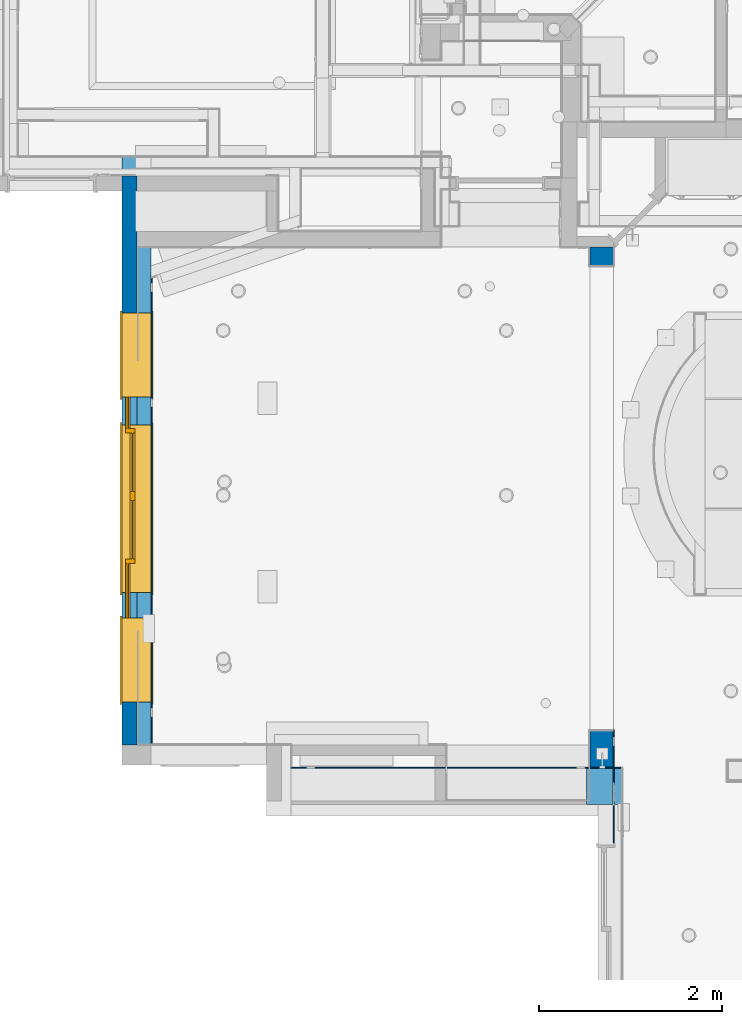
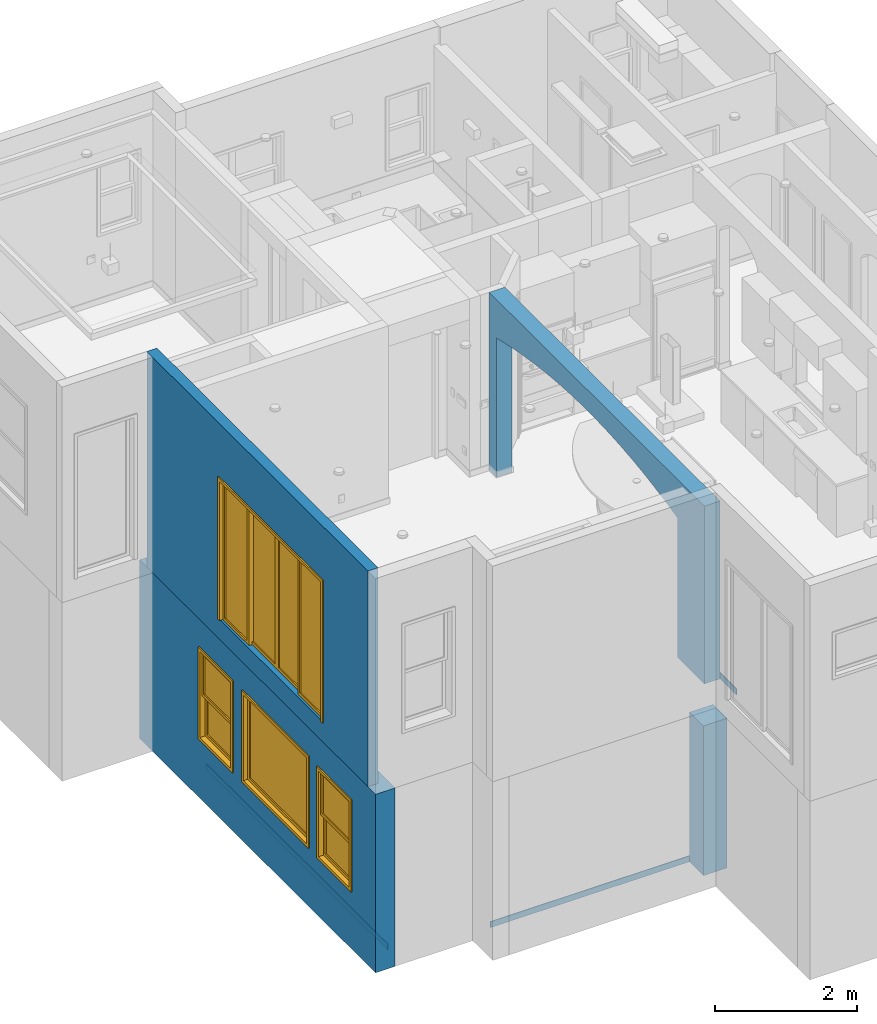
# One storey, part 2 of 60: 7 walls, 3 windows, 1 door, 7 openings.
"""IFC2X3 building model written with IfcOpenShell, lengths in feet."""

from ifc_helpers import new_model, entity, si_unit, converted_unit, direction, frame, frame_2d, origin, origin_2d_with_axis, place, context, subcontext, project, spatial, polyline, circle_curve, parameter, trimmed, segment, composite_curve, rectangle, outline, extrude, clip, bounded_halfspace, source, transform, mapped, material, material_list, layer, layer_set, layer_usage, type_object, type_shapes, element, fill, save


model = new_model("IFC2X3")

# Units and contexts
model_context = context("Model", 3, precision=0.0001, world=origin(), true_north=direction((6.123031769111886e-17, 1.0)))
plan_context = context("Plan", 3, precision=0.0001, world=origin(), true_north=direction((6.123031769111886e-17, 1.0)))
body_context = subcontext(model_context, "Body", "Model", "MODEL_VIEW")
ifc_project = project(units=[converted_unit("LENGTHUNIT", "FOOT", entity("IfcLengthMeasure", 0.3048), si_unit("LENGTHUNIT", "METRE"), dimensions=[1, 0, 0, 0, 0, 0, 0]), converted_unit("AREAUNIT", "SQUARE FOOT", entity("IfcAreaMeasure", 0.09290304), si_unit("AREAUNIT", "SQUARE_METRE"), dimensions=[2, 0, 0, 0, 0, 0, 0]), converted_unit("PLANEANGLEUNIT", "DEGREE", entity("IfcPlaneAngleMeasure", 0.017453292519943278), si_unit("PLANEANGLEUNIT", "RADIAN"), dimensions=[0, 0, 0, 0, 0, 0, 0])], contexts=[model_context, plan_context])

# Site, building, storey
site_placement = place(None, origin())
site = spatial("IfcSite", under=ifc_project, at=site_placement, Name="Default", CompositionType="ELEMENT")
building_placement = place(site_placement, origin())
building = spatial("IfcBuilding", under=site, at=building_placement, CompositionType="ELEMENT")
storey_placement = place(building_placement, origin())
storey = spatial("IfcBuildingStorey", under=building, at=storey_placement, Name="First floor", CompositionType="ELEMENT", Elevation=0.0)

# Wall, openings, door
ifc_material_1 = material(Name="Default New Material")
ifc_layer_1 = layer(ifc_material_1, 0.5416666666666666)
ifc_layer_set_1 = layer_set([ifc_layer_1], Name="Basic Wall:Wall_6.5\"")
ifc_layer_usage_1 = layer_usage(ifc_layer_set_1, "AXIS2", "NEGATIVE", 0.2708333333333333)
wall_type_1 = type_object("IfcWallType", Name="Basic Wall:Wall_6.5\"", PredefinedType="STANDARD", material=ifc_layer_set_1)
wall_1_placement = place(storey_placement, frame((-16.770833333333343, 11.208333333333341, 9.541666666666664), z_axis=(0.0, 0.0, 1.0), x_axis=(0.0, 1.0, 0.0)))
wall_1 = element("IfcWallStandardCase", 1, at=wall_1_placement, inside=storey, type_object=wall_type_1, material=ifc_layer_usage_1, Name="Basic Wall:Wall_6.5\"", ObjectType="Basic Wall:Wall_6.5\"", context=body_context, shape_type="SweptSolid", body=[
    extrude(rectangle(XDim=20.374999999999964, YDim=0.5416666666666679, at=frame_2d((10.187499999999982, -1.7763568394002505e-15), x_axis=(-1.0, 0.0))), origin(), (0.0, 0.0, 1.0), 12.125),
])
opening_1_placement = place(storey_placement, frame((-16.770833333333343, 11.208333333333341, 9.541666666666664), z_axis=(0.0, 0.0, 1.0), x_axis=(0.0, 1.0, 0.0)))
element("IfcOpeningElement", 2, at=opening_1_placement, cuts=wall_1, Name="Basic Wall:Wall_6.5\":1", ObjectType="Opening", context=body_context, shape_type="SweptSolid", body=[
    extrude(rectangle(XDim=1.4583333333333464, YDim=0.062488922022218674, at=frame_2d((1.7763568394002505e-15, 1.7763568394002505e-15), x_axis=(1.0, 0.0))), frame((19.104166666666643, -0.23958887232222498, 1.1250000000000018), z_axis=(0.0, 0.0, 1.0), x_axis=(-1.0, 0.0, 0.0)), (0.0, 0.0, 1.0), 3.5833333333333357),
])
opening_2_placement = place(wall_1_placement, frame((13.666666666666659, 0.27083333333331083, 1.1250000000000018)))
opening_2 = element("IfcOpeningElement", 3, at=opening_2_placement, cuts=wall_1, Name="Double Sliding Door:9'-4\" X 7'-10\":1", ObjectType="Opening", context=body_context, shape_type="SweptSolid", body=[
    extrude(rectangle(XDim=7.916666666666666, YDim=9.499999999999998, at=frame_2d((3.958333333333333, 4.749999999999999), x_axis=(-1.0, 0.0))), frame((0.0, 0.0, 0.0), z_axis=(0.0, -1.0, 0.0), x_axis=(0.0, 0.0, 1.0)), (0.0, 0.0, 1.0), 0.5416666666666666),
])
ifc_material_2 = material(Name="Glass")
ifc_material_list_1 = material_list([ifc_material_2, ifc_material_1])
door_style = type_object("IfcDoorStyle", Name="Double Sliding Door:9'-4\" X 7'-10\"", ConstructionType="NOTDEFINED", OperationType="NOTDEFINED", ParameterTakesPrecedence=False, Sizeable=False, material=ifc_material_list_1)
shared_shape_1 = source(origin(), body_context, "Body", "SweptSolid", [
    extrude(rectangle(XDim=0.04166666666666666, YDim=2.0833333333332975, at=frame_2d((1.3877787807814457e-17, 0.0), x_axis=(1.0, 0.0))), frame((5.9583333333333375, 0.375, 0.16666666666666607), z_axis=(0.0, 0.0, 1.0), x_axis=(0.0, 1.0, 0.0)), (0.0, 0.0, 1.0), 7.5),
    extrude(rectangle(XDim=0.04166666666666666, YDim=2.0833333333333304, at=frame_2d((1.3877787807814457e-17, 0.0), x_axis=(1.0, 0.0))), frame((3.541666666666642, 0.375, 0.16666666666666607), z_axis=(0.0, 0.0, 1.0), x_axis=(0.0, 1.0, 0.0)), (0.0, 0.0, 1.0), 7.5),
    extrude(rectangle(XDim=0.04166666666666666, YDim=2.0833333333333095, at=frame_2d((0.0, -2.220446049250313e-16), x_axis=(1.0, 0.0))), frame((1.2916666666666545, 0.20833333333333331, 0.16666666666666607), z_axis=(0.0, 0.0, 1.0), x_axis=(0.0, 1.0, 0.0)), (0.0, 0.0, 1.0), 7.5),
    extrude(rectangle(XDim=0.04166666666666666, YDim=2.0833333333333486, at=frame_2d((0.0, -2.220446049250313e-16), x_axis=(1.0, 0.0))), frame((8.208333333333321, 0.20833333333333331, 0.16666666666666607), z_axis=(0.0, 0.0, 1.0), x_axis=(0.0, 1.0, 0.0)), (0.0, 0.0, 1.0), 7.5),
    extrude(outline(polyline([(-3.9166666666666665, -1.2083333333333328), (3.9166666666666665, -1.2083333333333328), (3.9166666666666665, 1.2083333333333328), (-3.9166666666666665, 1.2083333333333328), (-3.9166666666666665, -1.2083333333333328)]), holes=[polyline([(-3.7499999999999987, 1.0416666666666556), (3.7500000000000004, 1.0416666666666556), (3.7500000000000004, -1.041666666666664), (-3.7499999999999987, -1.041666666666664), (-3.7499999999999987, 1.0416666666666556)])]), frame((3.541666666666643, 0.2916666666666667, 3.9166666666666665), z_axis=(0.0, 1.0, 0.0), x_axis=(0.0, 0.0, -1.0)), (0.0, 0.0, 1.0), 0.16666666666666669),
    extrude(outline(polyline([(-1.2083333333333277, -3.9166666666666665), (1.2083333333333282, -3.9166666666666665), (1.2083333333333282, 3.9166666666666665), (-1.2083333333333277, 3.9166666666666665), (-1.2083333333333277, -3.9166666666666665)]), holes=[polyline([(1.04166666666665, -3.7499999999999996), (-1.041666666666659, -3.7499999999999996), (-1.041666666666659, 3.7500000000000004), (1.04166666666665, 3.7500000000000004), (1.04166666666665, -3.7499999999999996)])]), frame((1.291666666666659, 0.125, 3.9166666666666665), z_axis=(0.0, 1.0, 0.0), x_axis=(1.0, 0.0, 0.0)), (0.0, 0.0, 1.0), 0.16666666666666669),
    extrude(outline(polyline([(-1.208333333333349, -3.9166666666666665), (1.208333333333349, -3.9166666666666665), (1.208333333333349, 3.9166666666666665), (-1.208333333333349, 3.9166666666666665), (-1.208333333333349, -3.9166666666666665)]), holes=[polyline([(1.041666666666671, -3.7499999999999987), (-1.0416666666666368, -3.7499999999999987), (-1.0416666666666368, 3.7500000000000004), (1.041666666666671, 3.7500000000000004), (1.041666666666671, -3.7499999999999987)])]), frame((5.958333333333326, 0.2916666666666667, 3.9166666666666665), z_axis=(0.0, 1.0, 0.0), x_axis=(1.0, 0.0, 0.0)), (0.0, 0.0, 1.0), 0.16666666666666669),
    extrude(outline(polyline([(-3.9166666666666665, -1.208333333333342), (3.9166666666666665, -1.208333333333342), (3.9166666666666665, 1.2083333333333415), (-3.9166666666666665, 1.2083333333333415), (-3.9166666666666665, -1.208333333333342)]), holes=[polyline([(-3.7499999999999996, 1.0416666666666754), (3.7500000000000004, 1.0416666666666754), (3.7500000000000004, -1.0416666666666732), (-3.7499999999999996, -1.0416666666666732), (-3.7499999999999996, 1.0416666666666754)])]), frame((8.208333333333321, 0.125, 3.9166666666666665), z_axis=(0.0, 1.0, 0.0), x_axis=(0.0, 0.0, -1.0)), (0.0, 0.0, 1.0), 0.16666666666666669),
    extrude(outline(polyline([(-3.875000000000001, 4.666666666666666), (3.958333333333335, 4.666666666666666), (3.958333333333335, 4.833333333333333), (-4.041666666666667, 4.833333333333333), (-4.041666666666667, -4.833333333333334), (3.958333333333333, -4.833333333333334), (3.958333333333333, -4.666666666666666), (-3.875000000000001, -4.666666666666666), (-3.875000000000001, 4.666666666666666)])), frame((4.749999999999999, -0.0625, 3.958333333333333), z_axis=(0.0, 1.0, 0.0), x_axis=(0.0, 0.0, -1.0)), (0.0, 0.0, 1.0), 0.0625),
    extrude(outline(polyline([(-3.875, 4.666666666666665), (3.958333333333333, 4.666666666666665), (3.958333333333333, 4.833333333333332), (-4.041666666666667, 4.833333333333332), (-4.041666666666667, -4.833333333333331), (3.958333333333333, -4.833333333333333), (3.958333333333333, -4.666666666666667), (-3.875, -4.666666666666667), (-3.875, 4.666666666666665)])), frame((4.749999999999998, 0.5416666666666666, 3.958333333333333), z_axis=(0.0, 1.0, 0.0), x_axis=(0.0, 0.0, -1.0)), (0.0, 0.0, 1.0), 0.0625),
    extrude(outline(polyline([(-3.937500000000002, -4.749999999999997), (3.9791666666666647, -4.749999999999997), (3.9791666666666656, 4.7499999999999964), (-3.9374999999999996, 4.749999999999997), (-3.9374999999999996, 4.666666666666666), (3.8958333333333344, 4.666666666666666), (3.8958333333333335, -4.666666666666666), (-3.937500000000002, -4.666666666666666), (-3.937500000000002, -4.749999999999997)])), frame((4.749999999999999, 0.0, 3.9375), z_axis=(0.0, 1.0, 0.0), x_axis=(0.0, 0.0, 1.0)), (0.0, 0.0, 1.0), 0.5416666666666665),
])
type_shapes(door_style, [shared_shape_1])
door_placement = place(opening_2_placement, frame((0.0, 0.0, 0.0), z_axis=(0.0, 0.0, 1.0), x_axis=(-1.0, 0.0, 0.0)))
door = element("IfcDoor", 4, at=door_placement, inside=storey, type_object=door_style, material=ifc_material_list_1, Name="Double Sliding Door:9'-4\" X 7'-10\"", ObjectType="Double Sliding Door:9'-4\" X 7'-10\"", OverallHeight=7.916666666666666, OverallWidth=9.499999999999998, context=body_context, shape_type="MappedRepresentation", body=[
    mapped(shared_shape_1, transform((0.0, 0.0, 0.0), scale=1.0)),
])
fill(opening_2, door)

# Wall, openings
ifc_layer_2 = layer(ifc_material_1, 0.8333333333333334)
ifc_layer_set_2 = layer_set([ifc_layer_2], Name="Basic Wall:Wall_10\"")
ifc_layer_usage_2 = layer_usage(ifc_layer_set_2, "AXIS2", "POSITIVE", -0.41666666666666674)
wall_type_2 = type_object("IfcWallType", Name="Basic Wall:Wall_10\"", PredefinedType="STANDARD", material=ifc_layer_set_2)
wall_2_placement = place(storey_placement, frame((0.12500000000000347, 9.208333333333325, 10.666666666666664), z_axis=(0.0, 0.0, 1.0), x_axis=(0.0, 1.0, 0.0)))
wall_2 = element("IfcWallStandardCase", 5, at=wall_2_placement, inside=storey, type_object=wall_type_2, material=ifc_layer_usage_2, Name="Basic Wall:Wall_10\"", ObjectType="Basic Wall:Wall_10\"", context=body_context, shape_type="SweptSolid", body=[
    extrude(rectangle(XDim=19.833333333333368, YDim=0.8333333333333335, at=frame_2d((9.916666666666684, -8.326672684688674e-17), x_axis=(-1.0, 0.0))), origin(), (0.0, 0.0, 1.0), 10.0),
])
opening_3_placement = place(wall_2_placement, frame((-9.208333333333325, 0.12499999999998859, -10.666666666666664)))
element("IfcOpeningElement", 6, at=opening_3_placement, cuts=wall_2, Name="Basic Wall:Wall_10\"", ObjectType="Opening", context=body_context, shape_type="SweptSolid", body=[
    extrude(outline(composite_curve([segment(trimmed(circle_curve(frame_2d((30.305555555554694, 0.0), x_axis=(1.0, 0.0)), 35.22222222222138), [parameter(166.31445317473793)], [parameter(193.68554682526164)], True, "PARAMETER"), True, "CONTINUOUS"), segment(polyline([(-3.9166666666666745, -8.333333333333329), (3.9166666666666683, -8.333333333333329)]), True, "CONTINUOUS"), segment(polyline([(3.9166666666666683, -8.333333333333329), (3.9166666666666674, 8.333333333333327)]), True, "CONTINUOUS"), segment(polyline([(3.9166666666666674, 8.333333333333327), (-3.916666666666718, 8.33333333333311)]), True, "CONTINUOUS")], self_intersect=False)), frame((20.04166666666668, -0.541666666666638, 14.583333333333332), z_axis=(0.0, 1.0, 0.0), x_axis=(0.0, 0.0, -1.0)), (0.0, 0.0, 1.0), 0.8333333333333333),
])
opening_4_placement = place(wall_2_placement, frame((-9.208333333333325, 0.12499999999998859, 0.0)))
element("IfcOpeningElement", 7, at=opening_4_placement, cuts=wall_2, Name="Basic Wall:Wall_10\"", ObjectType="Recess", context=body_context, shape_type="SweptSolid", body=[
    extrude(rectangle(XDim=8.083333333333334, YDim=2.166666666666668, at=frame_2d((8.881784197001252e-16, -1.7763568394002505e-15), x_axis=(1.0, 0.0))), frame((29.896177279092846, -1.3961772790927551, 4.041666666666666), z_axis=(0.7071067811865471, 0.7071067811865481, 0.0), x_axis=(0.0, 0.0, 1.0)), (0.0, 0.0, 1.0), 0.374999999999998),
])

# Wall, openings, windows
ifc_layer_3 = layer(ifc_material_1, 1.0416666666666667)
ifc_layer_set_3 = layer_set([ifc_layer_3], Name="Basic Wall:Wall_1'1/2\"")
ifc_layer_usage_3 = layer_usage(ifc_layer_set_3, "AXIS2", "POSITIVE", -0.5208333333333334)
wall_type_3 = type_object("IfcWallType", Name="Basic Wall:Wall_1'1/2\"", PredefinedType="STANDARD", material=ifc_layer_set_3)
wall_3_placement = place(storey_placement, frame((-16.52083333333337, 32.24999999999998, -0.5), z_axis=(0.0, 0.0, 1.0), x_axis=(0.0, -1.0, 0.0)))
wall_3 = element("IfcWallStandardCase", 8, at=wall_3_placement, inside=storey, type_object=wall_type_3, material=ifc_layer_usage_3, Name="Basic Wall:Wall_1'1/2\"", ObjectType="Basic Wall:Wall_1'1/2\"", context=body_context, shape_type="SweptSolid", body=[
    extrude(rectangle(XDim=21.749999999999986, YDim=1.0416666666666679, at=frame_2d((10.874999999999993, -1.7763568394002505e-15), x_axis=(-1.0, 0.0))), origin(), (0.0, 0.0, 1.0), 10.041666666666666),
])
opening_5_placement = place(wall_3_placement, frame((9.58333333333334, -0.5208333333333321, 3.416666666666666)))
opening_5 = element("IfcOpeningElement", 9, at=opening_5_placement, cuts=wall_3, Name="C_Single Window:5'-10\" X 4'-10\":1", ObjectType="Opening", context=body_context, shape_type="SweptSolid", body=[
    extrude(rectangle(XDim=4.999999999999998, YDim=5.999999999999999, at=frame_2d((2.4999999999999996, 3.0), x_axis=(-1.0, 0.0))), frame((0.0, 0.0, 0.0), z_axis=(0.0, 1.0, 0.0), x_axis=(0.0, 0.0, 1.0)), (0.0, 0.0, 1.0), 1.0416666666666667),
])
opening_6_placement = place(wall_3_placement, frame((8.583333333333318, 0.5208333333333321, 3.4166666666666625)))
opening_6 = element("IfcOpeningElement", 10, at=opening_6_placement, cuts=wall_3, Name="C_Window Guilotine:2'-10\" X 4'-10\":1", ObjectType="Opening", context=body_context, shape_type="SweptSolid", body=[
    extrude(rectangle(XDim=2.9999999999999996, YDim=5.000000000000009, at=frame_2d((2.5000000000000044, 1.5), x_axis=(0.0, -1.0))), frame((0.0, 0.0, 0.0), z_axis=(0.0, -1.0, 0.0), x_axis=(0.0, 0.0, 1.0)), (0.0, 0.0, 1.0), 1.0416666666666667),
])
opening_7_placement = place(wall_3_placement, frame((19.49999999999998, 0.5208333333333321, 3.3333333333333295)))
opening_7 = element("IfcOpeningElement", 11, at=opening_7_placement, cuts=wall_3, Name="C_Window Guilotine:2'-10\" X 4'-10\":1", ObjectType="Opening", context=body_context, shape_type="SweptSolid", body=[
    extrude(rectangle(XDim=2.9999999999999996, YDim=5.000000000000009, at=frame_2d((2.500000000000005, 1.5000000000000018), x_axis=(0.0, -1.0))), frame((0.0, 0.0, 0.0), z_axis=(0.0, -1.0, 0.0), x_axis=(0.0, 0.0, 1.0)), (0.0, 0.0, 1.0), 1.0416666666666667),
])
ifc_material_list_2 = material_list([ifc_material_1, ifc_material_2])
window_style_1 = type_object("IfcWindowStyle", Name="C_Window Guilotine:2'-10\" X 4'-10\"", ConstructionType="NOTDEFINED", OperationType="NOTDEFINED", ParameterTakesPrecedence=False, Sizeable=False, material=ifc_material_list_2)
shared_shape_2 = source(origin(), body_context, "Body", "SweptSolid", [
    extrude(outline(polyline([(-1.2500000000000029, -1.4166666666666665), (1.2500000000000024, -1.4166666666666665), (1.2500000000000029, 1.4166666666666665), (-1.2500000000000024, 1.4166666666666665), (-1.2500000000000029, -1.4166666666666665)]), holes=[polyline([(-1.0833333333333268, -1.2500000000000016), (-1.0833333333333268, 1.2499999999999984), (1.0833333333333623, 1.249999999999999), (1.0833333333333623, -1.250000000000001), (-1.0833333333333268, -1.2500000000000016)])]), frame((1.500000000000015, 1.0, 3.6666666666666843), z_axis=(0.0, -1.0, 0.0), x_axis=(0.0, 0.0, -1.0)), (0.0, 0.0, 1.0), 0.16666666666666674),
    extrude(rectangle(XDim=0.04166666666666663, YDim=2.5, at=origin_2d_with_axis()), frame((1.5000000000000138, 0.916666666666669, 4.00694444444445), z_axis=(0.0, 0.0, 1.0), x_axis=(0.0, 1.0, 0.0)), (0.0, 0.0, 1.0), 0.04166666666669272),
    extrude(rectangle(XDim=0.04166666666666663, YDim=2.5, at=origin_2d_with_axis()), frame((1.5000000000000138, 0.916666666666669, 3.2847222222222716), z_axis=(0.0, 0.0, 1.0), x_axis=(0.0, 1.0, 0.0)), (0.0, 0.0, 1.0), 0.04166666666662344),
    extrude(rectangle(XDim=0.04166666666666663, YDim=0.04166666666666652, at=origin_2d_with_axis()), frame((1.083333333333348, 0.916666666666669, 2.5833333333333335), z_axis=(0.0, 0.0, 1.0), x_axis=(0.0, 1.0, 0.0)), (0.0, 0.0, 1.0), 2.1666666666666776),
    extrude(rectangle(XDim=0.04166666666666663, YDim=0.04166666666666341, at=origin_2d_with_axis()), frame((1.9166666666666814, 0.916666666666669, 2.5833333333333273), z_axis=(0.0, 0.0, 1.0), x_axis=(0.0, 1.0, 0.0)), (0.0, 0.0, 1.0), 2.1666666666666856),
    extrude(rectangle(XDim=0.04166666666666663, YDim=2.5000000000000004, at=frame_2d((0.0, -2.220446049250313e-16), x_axis=(1.0, 0.0))), frame((1.5000000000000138, 0.916666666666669, 2.583333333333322), z_axis=(0.0, 0.0, 1.0), x_axis=(0.0, 1.0, 0.0)), (0.0, 0.0, 1.0), 2.166666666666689),
    extrude(rectangle(XDim=0.04166666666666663, YDim=2.4999999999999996, at=origin_2d_with_axis()), frame((1.5000000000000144, 0.75, 1.6736111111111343), z_axis=(0.0, 0.0, 1.0), x_axis=(0.0, 1.0, 0.0)), (0.0, 0.0, 1.0), 0.04166666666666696),
    extrude(rectangle(XDim=0.04166666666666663, YDim=2.5000000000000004, at=origin_2d_with_axis()), frame((1.500000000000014, 0.75, 0.9513888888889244), z_axis=(0.0, 0.0, 1.0), x_axis=(0.0, 1.0, 0.0)), (0.0, 0.0, 1.0), 0.04166666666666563),
    extrude(rectangle(XDim=0.04166666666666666, YDim=0.041666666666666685, at=frame_2d((-1.3877787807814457e-17, 2.7755575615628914e-17), x_axis=(1.0, 0.0))), frame((1.0833333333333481, 0.7500000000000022, 0.2500000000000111), z_axis=(0.0, 0.0, 1.0), x_axis=(0.0, 1.0, 0.0)), (0.0, 0.0, 1.0), 2.1666666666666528),
    extrude(rectangle(XDim=0.04166666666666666, YDim=0.04166666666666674, at=frame_2d((-1.3877787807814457e-17, 0.0), x_axis=(1.0, 0.0))), frame((1.9166666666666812, 0.7500000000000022, 0.2500000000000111), z_axis=(0.0, 0.0, 1.0), x_axis=(0.0, 1.0, 0.0)), (0.0, 0.0, 1.0), 2.1666666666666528),
    extrude(rectangle(XDim=0.04166666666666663, YDim=2.4999999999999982, at=origin_2d_with_axis()), frame((1.5000000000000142, 0.75, 0.25000000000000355), z_axis=(0.0, 0.0, 1.0), x_axis=(0.0, 1.0, 0.0)), (0.0, 0.0, 1.0), 2.166666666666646),
    extrude(outline(polyline([(-1.416666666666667, -1.2500000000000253), (1.416666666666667, -1.2500000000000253), (1.4166666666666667, 1.2500000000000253), (-1.416666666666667, 1.2500000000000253), (-1.416666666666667, -1.2500000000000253)]), holes=[polyline([(1.2499999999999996, -1.0833333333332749), (-1.2500000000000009, -1.0833333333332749), (-1.2500000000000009, 1.0833333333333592), (1.2499999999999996, 1.0833333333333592), (1.2499999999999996, -1.0833333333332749)])]), frame((1.5000000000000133, 0.8333333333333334, 1.3333333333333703), z_axis=(0.0, -1.0, 0.0), x_axis=(-1.0, 0.0, 0.0)), (0.0, 0.0, 1.0), 0.16666666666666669),
    extrude(outline(polyline([(-1.5833333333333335, -2.583333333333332), (1.5833333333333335, -2.583333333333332), (1.5833333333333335, 2.583333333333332), (-1.5833333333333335, 2.583333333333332), (-1.5833333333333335, -2.583333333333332)]), holes=[polyline([(-1.4166666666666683, -2.416666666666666), (-1.416666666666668, 2.416666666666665), (1.4166666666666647, 2.416666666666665), (1.4166666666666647, -2.416666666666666), (-1.4166666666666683, -2.416666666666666)])]), frame((1.5000000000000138, 0.0, 2.500000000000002), z_axis=(0.0, -1.0, 0.0), x_axis=(-1.0, 0.0, 0.0)), (0.0, 0.0, 1.0), 0.0625),
    extrude(outline(polyline([(-1.5833333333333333, -2.583333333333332), (1.5833333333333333, -2.583333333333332), (1.5833333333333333, 2.583333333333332), (-1.5833333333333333, 2.583333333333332), (-1.5833333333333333, -2.583333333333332)]), holes=[polyline([(-1.4166666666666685, -2.416666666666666), (-1.4166666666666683, 2.416666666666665), (1.4166666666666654, 2.416666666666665), (1.4166666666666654, -2.416666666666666), (-1.4166666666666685, -2.416666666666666)])]), frame((1.5000000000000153, 1.1041666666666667, 2.500000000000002), z_axis=(0.0, -1.0, 0.0), x_axis=(-1.0, 0.0, 0.0)), (0.0, 0.0, 1.0), 0.0625),
    extrude(outline(polyline([(-2.4999999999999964, -1.4999999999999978), (2.4999999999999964, -1.4999999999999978), (2.4999999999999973, 1.4999999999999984), (-2.4999999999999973, 1.499999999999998), (-2.4999999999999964, -1.4999999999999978)]), holes=[polyline([(-2.4166666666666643, 1.4166666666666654), (2.4166666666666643, 1.4166666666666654), (2.416666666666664, -1.4166666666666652), (-2.4166666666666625, -1.4166666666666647), (-2.4166666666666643, 1.4166666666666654)])]), frame((1.5000000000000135, 1.0416666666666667, 2.500000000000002), z_axis=(0.0, -1.0, 0.0), x_axis=(0.0, 0.0, -1.0)), (0.0, 0.0, 1.0), 1.041666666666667),
])
type_shapes(window_style_1, [shared_shape_2])
window_1_placement = place(opening_7_placement, frame((0.0, 0.0, 0.0), z_axis=(0.0, 0.0, 1.0), x_axis=(-1.0, 0.0, 0.0)))
window_1 = element("IfcWindow", 12, at=window_1_placement, inside=storey, type_object=window_style_1, material=ifc_material_list_2, Name="C_Window Guilotine:2'-10\" X 4'-10\"", ObjectType="C_Window Guilotine:2'-10\" X 4'-10\"", OverallHeight=5.00000000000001, OverallWidth=3.0000000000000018, context=body_context, shape_type="MappedRepresentation", body=[
    mapped(shared_shape_2, transform((0.0, 0.0, 0.0), scale=1.0)),
])
fill(opening_7, window_1)
window_2_placement = place(opening_6_placement, frame((0.0, 0.0, 0.0), z_axis=(0.0, 0.0, 1.0), x_axis=(-1.0, 0.0, 0.0)))
window_2 = element("IfcWindow", 13, at=window_2_placement, inside=storey, type_object=window_style_1, material=ifc_material_list_2, Name="C_Window Guilotine:2'-10\" X 4'-10\"", ObjectType="C_Window Guilotine:2'-10\" X 4'-10\"", OverallHeight=5.000000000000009, OverallWidth=3.0, context=body_context, shape_type="MappedRepresentation", body=[
    mapped(shared_shape_2, transform((0.0, 0.0, 0.0), scale=1.0)),
])
fill(opening_6, window_2)
window_style_2 = type_object("IfcWindowStyle", Name="C_Single Window:5'-10\" X 4'-10\"", ConstructionType="NOTDEFINED", OperationType="NOTDEFINED", ParameterTakesPrecedence=False, Sizeable=False, material=ifc_material_list_1)
shared_shape_3 = source(origin(), body_context, "Body", "SweptSolid", [
    extrude(rectangle(XDim=0.04166666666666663, YDim=5.4999999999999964, at=origin_2d_with_axis()), frame((3.0, 0.25000000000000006, 0.2499999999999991), z_axis=(0.0, 0.0, 1.0), x_axis=(0.0, 1.0, 0.0)), (0.0, 0.0, 1.0), 4.500000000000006),
    extrude(outline(polyline([(-2.916666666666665, -2.4166666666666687), (2.916666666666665, -2.4166666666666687), (2.9166666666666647, 2.4166666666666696), (-2.916666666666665, 2.4166666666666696), (-2.916666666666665, -2.4166666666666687)]), holes=[polyline([(2.7499999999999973, -2.2500000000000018), (-2.749999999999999, -2.2500000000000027), (-2.749999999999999, 2.2500000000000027), (2.7499999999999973, 2.2500000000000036), (2.7499999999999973, -2.2500000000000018)])]), frame((3.0, 0.33333333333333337, 2.5000000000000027), z_axis=(0.0, -1.0, 0.0), x_axis=(-1.0, 0.0, 0.0)), (0.0, 0.0, 1.0), 0.16666666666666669),
    extrude(outline(polyline([(-3.083333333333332, -2.5833333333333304), (3.083333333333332, -2.5833333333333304), (3.083333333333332, 2.5833333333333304), (-3.083333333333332, 2.5833333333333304), (-3.083333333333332, -2.5833333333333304)]), holes=[polyline([(-2.916666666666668, -2.416666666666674), (-2.916666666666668, 2.4166666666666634), (2.9166666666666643, 2.4166666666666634), (2.9166666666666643, -2.416666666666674), (-2.916666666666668, -2.416666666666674)])]), frame((3.0, 0.0, 2.4999999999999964), z_axis=(0.0, -1.0, 0.0), x_axis=(-1.0, 0.0, 0.0)), (0.0, 0.0, 1.0), 0.0625),
    extrude(outline(polyline([(-3.0833333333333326, -2.583333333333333), (3.0833333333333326, -2.583333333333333), (3.0833333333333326, 2.583333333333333), (-3.0833333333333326, 2.583333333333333), (-3.0833333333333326, -2.583333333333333)]), holes=[polyline([(-2.9166666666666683, -2.416666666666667), (-2.9166666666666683, 2.416666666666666), (2.9166666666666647, 2.416666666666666), (2.9166666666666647, -2.416666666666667), (-2.9166666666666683, -2.416666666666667)])]), frame((3.0, 1.1041666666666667, 2.499999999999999), z_axis=(0.0, -1.0, 0.0), x_axis=(-1.0, 0.0, 0.0)), (0.0, 0.0, 1.0), 0.0625),
    extrude(outline(polyline([(-2.4999999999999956, -3.0), (2.4999999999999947, -3.0), (2.4999999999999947, 3.0), (-2.4999999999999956, 3.0), (-2.4999999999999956, -3.0)]), holes=[polyline([(-2.4166666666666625, 2.9166666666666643), (2.4166666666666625, 2.916666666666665), (2.4166666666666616, -2.9166666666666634), (-2.4166666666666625, -2.9166666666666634), (-2.4166666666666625, 2.9166666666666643)])]), frame((3.0, 1.0416666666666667, 2.4999999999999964), z_axis=(0.0, -1.0, 0.0), x_axis=(0.0, 0.0, -1.0)), (0.0, 0.0, 1.0), 1.041666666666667),
])
type_shapes(window_style_2, [shared_shape_3])
window_3_placement = place(opening_5_placement, origin())
window_3 = element("IfcWindow", 14, at=window_3_placement, inside=storey, type_object=window_style_2, material=ifc_material_list_1, Name="C_Single Window:5'-10\" X 4'-10\"", ObjectType="C_Single Window:5'-10\" X 4'-10\"", OverallHeight=4.999999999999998, OverallWidth=6.0, context=body_context, shape_type="MappedRepresentation", body=[
    mapped(shared_shape_3, transform((0.0, 0.0, 0.0), scale=1.0)),
])
fill(opening_5, window_3)

# Walls
ifc_layer_4 = layer(ifc_material_1, 1.2916666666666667)
ifc_layer_set_4 = layer_set([ifc_layer_4], Name="Basic Wall:Wall_1' 3 1/2\"")
ifc_layer_usage_4 = layer_usage(ifc_layer_set_4, "AXIS2", "NEGATIVE", 0.6458333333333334)
wall_type_4 = type_object("IfcWallType", Name="Basic Wall:Wall_1' 3 1/2\"", PredefinedType="STANDARD", material=ifc_layer_set_4)
wall_4_placement = place(storey_placement, frame((0.8333333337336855, 9.729166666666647, 0.0), z_axis=(0.0, 0.0, 1.0), x_axis=(-1.0, 0.0, 0.0)))
element("IfcWallStandardCase", 15, at=wall_4_placement, inside=storey, type_object=wall_type_4, material=ifc_layer_usage_4, Name="Basic Wall:Wall_1' 3 1/2\"", ObjectType="Basic Wall:Wall_1' 3 1/2\"", context=body_context, shape_type="SweptSolid", body=[
    extrude(rectangle(XDim=1.250000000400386, YDim=1.2916666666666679, at=frame_2d((0.625000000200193, -5.551115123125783e-17), x_axis=(-1.0, 0.0))), origin(), (0.0, 0.0, 1.0), 8.416666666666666),
])
ifc_layer_5 = layer(ifc_material_1, 0.041666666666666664)
ifc_layer_set_5 = layer_set([ifc_layer_5], Name="Basic Wall:Wall Border_T1")
ifc_layer_usage_5 = layer_usage(ifc_layer_set_5, "AXIS2", "NEGATIVE", 0.020833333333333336)
wall_type_5 = type_object("IfcWallType", Name="Basic Wall:Wall Border_T1", PredefinedType="STANDARD", material=ifc_layer_set_5)
wall_5_placement = place(storey_placement, frame((0.8333333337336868, 10.395833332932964, 0.0), z_axis=(0.0, 0.0, 1.0), x_axis=(-1.0, 0.0, 0.0)))
element("IfcWallStandardCase", 16, at=wall_5_placement, inside=storey, type_object=wall_type_5, material=ifc_layer_usage_5, Name="Basic Wall:Wall Border_T1", ObjectType="Basic Wall:Wall Border_T1", context=body_context, shape_type="Clipping", body=[
    clip(extrude(rectangle(XDim=11.833333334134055, YDim=0.04166666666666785, at=frame_2d((5.916666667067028, 0.0), x_axis=(-1.0, 0.0))), origin(), (0.0, 0.0, 1.0), 0.33333333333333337), bounded_halfspace(frame((0.0, -0.02083333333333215, 0.0), z_axis=(1.0, 0.0, 0.0), x_axis=(0.0, 1.0, 0.0)), True, frame((0.0, -0.02083333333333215, 0.0), z_axis=(1.0, 0.0, 0.0), x_axis=(0.0, 1.0, 0.0)), polyline([(0.0, 0.0), (0.041666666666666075, 0.0), (0.041666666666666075, 0.33333333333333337), (0.0, 0.3333333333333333), (0.0, 0.0)]))),
])
ifc_layer_usage_6 = layer_usage(ifc_layer_set_5, "AXIS2", "NEGATIVE", 0.020833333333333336)
wall_6_placement = place(storey_placement, frame((-15.979166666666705, 27.92859655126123, 0.0), z_axis=(0.0, 0.0, 1.0), x_axis=(0.0, -1.0, 0.0)))
element("IfcWallStandardCase", 17, at=wall_6_placement, inside=storey, type_object=wall_type_5, material=ifc_layer_usage_6, Name="Basic Wall:Wall Border_T1", ObjectType="Basic Wall:Wall Border_T1", context=body_context, shape_type="Clipping", body=[
    clip(extrude(rectangle(XDim=16.720263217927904, YDim=0.04166666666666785, at=frame_2d((8.360131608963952, -2.6020852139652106e-17), x_axis=(-1.0, 0.0))), origin(), (0.0, 0.0, 1.0), 0.3333333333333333), bounded_halfspace(frame((0.014322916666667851, -0.02083333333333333, 0.0), z_axis=(0.9456865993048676, 0.3250797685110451, 0.0), x_axis=(-0.3250797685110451, 0.9456865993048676, 0.0)), True, frame((0.014322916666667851, -0.02083333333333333, 0.0), z_axis=(0.9456865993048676, 0.3250797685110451, 0.0), x_axis=(-0.3250797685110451, 0.9456865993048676, 0.0)), polyline([(0.0, 0.0), (0.04405969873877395, 0.0), (0.04405969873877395, 0.3333333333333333), (0.0, 0.3333333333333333), (0.0, 0.0)]))),
])
ifc_layer_usage_7 = layer_usage(ifc_layer_set_5, "AXIS2", "NEGATIVE", 0.020833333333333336)
wall_7_placement = place(storey_placement, frame((0.5625000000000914, 7.70833333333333, 10.666666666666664), z_axis=(0.0, 0.0, 1.0), x_axis=(0.0, 1.0, 0.0)))
element("IfcWallStandardCase", 18, at=wall_7_placement, inside=storey, type_object=wall_type_5, material=ifc_layer_usage_7, Name="Basic Wall:Wall Border_T1", ObjectType="Basic Wall:Wall Border_T1", context=body_context, shape_type="SweptSolid", body=[
    extrude(rectangle(XDim=4.0416666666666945, YDim=0.04166666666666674, at=frame_2d((2.0208333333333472, 5.204170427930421e-17), x_axis=(-1.0, 0.0))), origin(), (0.0, 0.0, 1.0), 0.3333333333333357),
])

save(model, "model.ifc")
